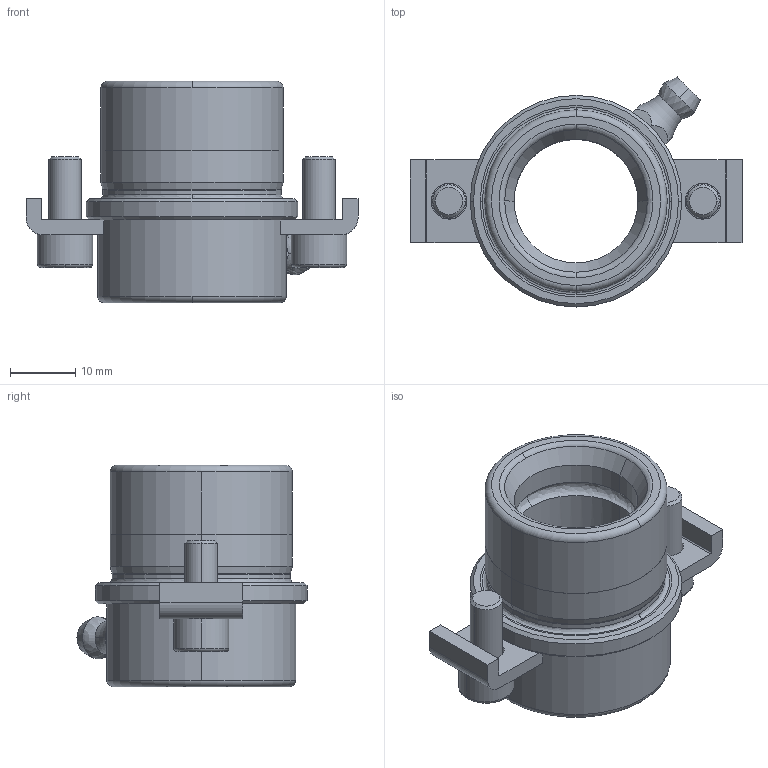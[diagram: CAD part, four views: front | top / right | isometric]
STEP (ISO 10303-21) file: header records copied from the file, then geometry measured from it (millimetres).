
FILE_DESCRIPTION((''),'2;1');
FILE_NAME('B10_019_016.stp','2008-11-04T11:34:02',(''),(''),'Mechanical Desktop 2009','Mechanical Desktop 2009',', , ');
FILE_SCHEMA(('CONFIG_CONTROL_DESIGN'));
Length unit declared in the file: millimetre
Products named in the file (5): Product; ProductAA; blmdl1; ProductA; blmdl1A
Assembly tree (2 placements, depth 3):
  Product
    ProductAA
      blmdl1
  ProductA
  blmdl1A
Bounding box: 51 x 35.34 x 34 mm (x, y, z)
Volume: 13958 mm3; surface area: 8292.5 mm2
Topology: 6 solids, 6 shells, 130 faces, 330 edges, 218 vertices
Faces by surface type: plane 48, cylinder 38, cone 18, torus 14, bspline 12
Entity records: 5060 total; most frequent: CARTESIAN_POINT 1622, DIRECTION 726, ORIENTED_EDGE 652, EDGE_CURVE 326, AXIS2_PLACEMENT_3D 296, VERTEX_POINT 216, CIRCLE 175, EDGE_LOOP 146
